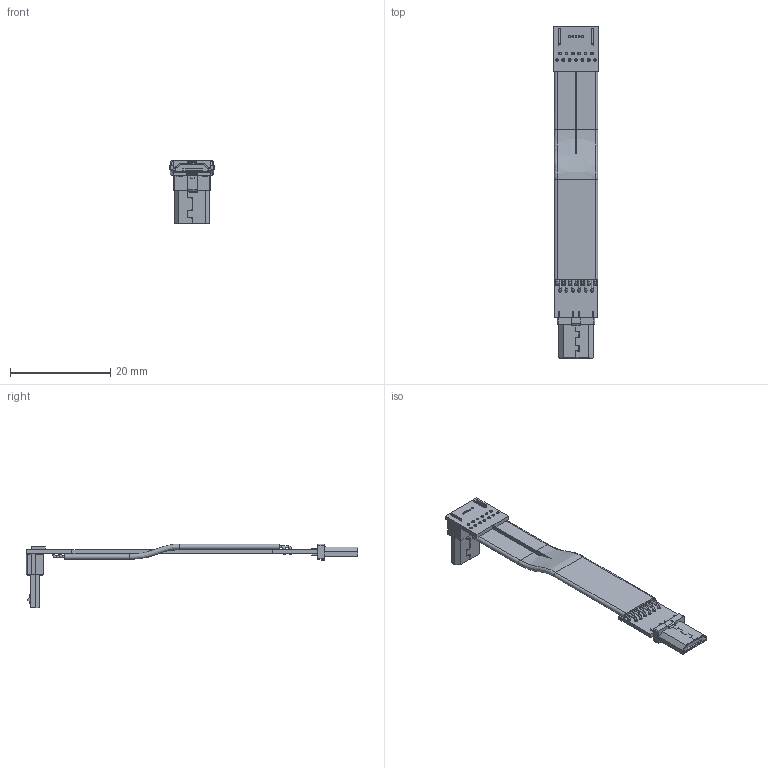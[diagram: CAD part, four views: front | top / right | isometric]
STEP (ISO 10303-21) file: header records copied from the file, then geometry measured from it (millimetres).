
FILE_DESCRIPTION(('Open CASCADE Model'),'2;1');
FILE_NAME('Open CASCADE Shape Model','2022-04-27T02:10:14',('Author'),( 'Open CASCADE'),'Open CASCADE STEP processor 6.8','Open CASCADE 6.8' ,'Unknown');
FILE_SCHEMA(('AUTOMOTIVE_DESIGN { 1 0 10303 214 1 1 1 1 }'));
Length unit declared in the file: millimetre
Products named in the file (35): PCB; Board; Open CASCADE STEP translator 6.8 2.1.1; Designator22; USB_micro; Designator22_1; micro_usb1; Free-Models; cable13-US1A
Assembly tree (34 placements, depth 3):
  PCB
    Board
      Open CASCADE STEP translator 6.8 2.1.1
    Designator22
      USB_micro
    Designator22_1
      micro_usb1
    Free-Models
      cable13-US1A
      cable13-US1A
      cable13-US1A
      cable13-US1A
      cable13-US1A
      cable13-US1A
      cable13-US1A
      cable13-US1A
      cable13-US1A
      cable13-US1A
      cable13-US1A
      cable13-US1A
      cable13-US1A
      cable13-US1A
      cable13-US1A
      cable13-US1A
      cable13-US1A
      cable13-US1A
      cable13-US1A
      cable13-US1A
      cable13-US1A
      cable13-US1A
      cable13-US1A
      cable13-US1A
      cable13-US1A
      cable13-US1A
      cable13-US1A
Bounding box: 8.96 x 66.32 x 12.7 mm (x, y, z)
Volume: 676 mm3; surface area: 2890 mm2
Topology: 30 solids, 30 shells, 608 faces, 1430 edges, 912 vertices
Faces by surface type: plane 389, cylinder 154, bspline 33, torus 26, extrusion 6
Full cylindrical faces by diameter (mm): 0.35 x5, 0.4 x59, 0.55 x13, 0.6 x13
Entity records: 24251 total; most frequent: CARTESIAN_POINT 4610, DIRECTION 2864, ORIENTED_EDGE 2860, EDGE_CURVE 1430, VECTOR 978, LINE 972, AXIS2_PLACEMENT_3D 943, VERTEX_POINT 912
